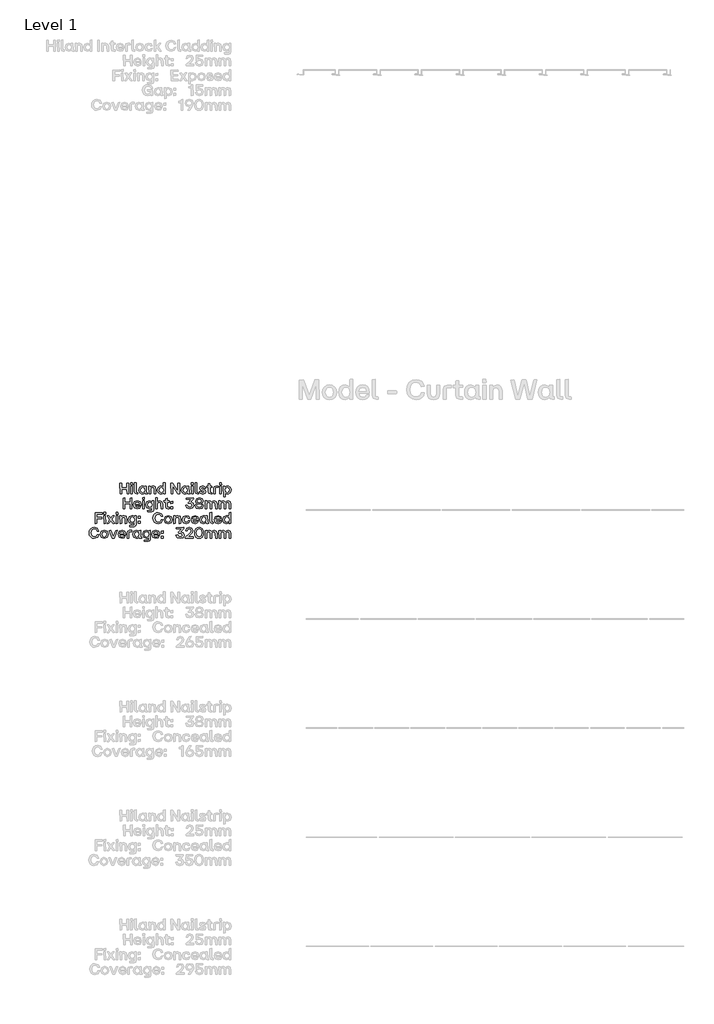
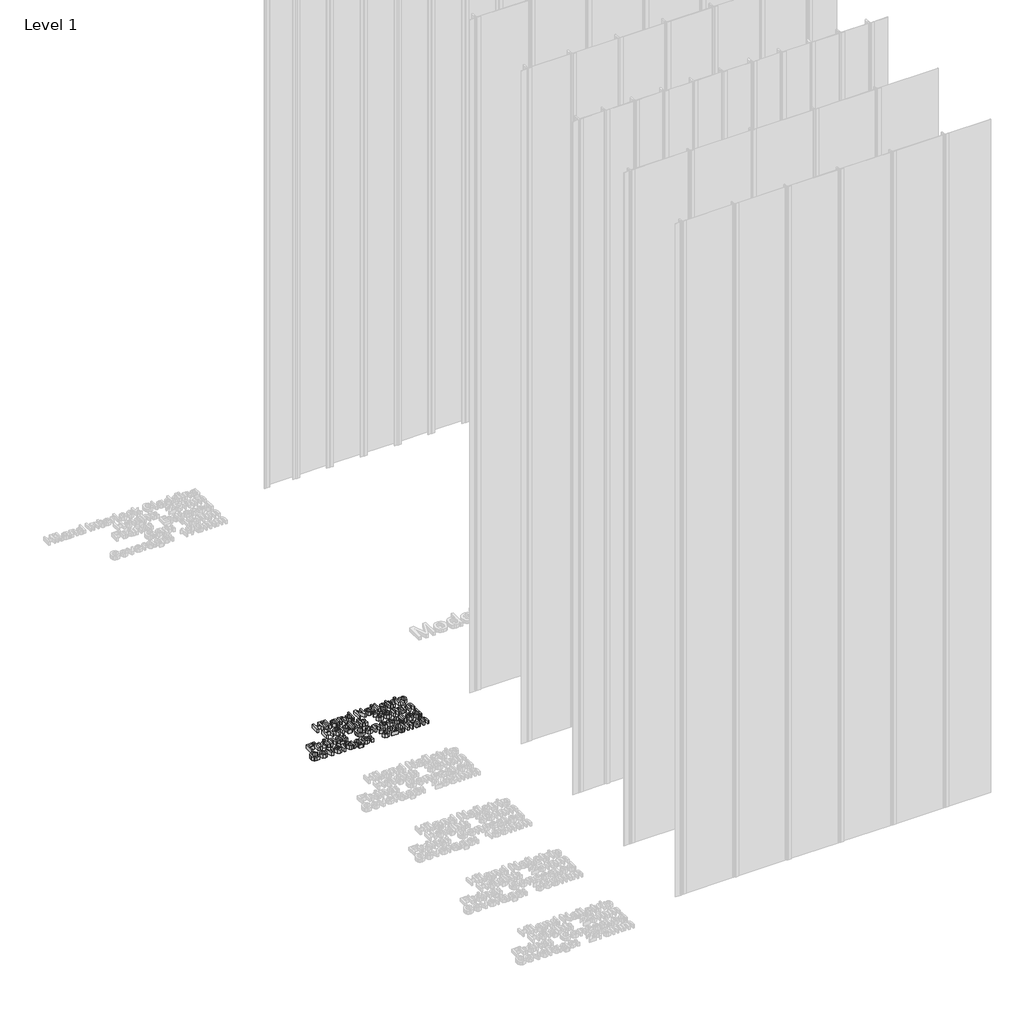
# One storey, part 13 of 64: 1 proxy.
"""IFC4 building model written with IfcOpenShell, lengths in millimetres."""

from ifc_helpers import new_model, si_unit, origin, origin_with_axes, place, context, project, spatial, polyline, outline, extrude, element, save

model = new_model("IFC4")

# Units and contexts
model_context = context("Model", 3, world=origin())
ifc_project = project(units=[si_unit("LENGTHUNIT", "METRE", prefix="MILLI")], contexts=[model_context])

# Site, building, storey
site = spatial("IfcSite", under=ifc_project)
building = spatial("IfcBuilding", under=site)
storey = spatial("IfcBuildingStorey", under=building, Name="Level 1", Elevation=0.0)

# Proxy
placement = place(None, origin())
element("IfcBuildingElementProxy", 1, Name="50mm", ObjectType="50mm", at=placement, inside=storey, context=model_context, shape_type="SweptSolid", body=[
    extrude(outline(polyline([(-779.9316481, -1933.5188866), (-780.6289799, -1911.5808277), (-804.4777279, -1911.5808277), (-804.4777279, -1932.8215548), (-811.9810183, -1933.5188866), (-812.7062434, -1884.2454206), (-805.2168997, -1883.5201955), (-804.4777279, -1904.6075096), (-780.6289799, -1904.6075096), (-780.6289799, -1884.2454206), (-773.1396362, -1883.5201955), (-772.4423044, -1932.8215548), (-779.9316481, -1933.5188866)])), origin_with_axes(), (0.0, 0.0, 1.0), 20.0),
    extrude(outline(polyline([(-762.3449397, -1933.5188866), (-763.0701648, -1897.8154977), (-755.8597538, -1897.1181659), (-755.162422, -1932.8215548), (-762.3449397, -1933.5188866)])), origin_with_axes(), (0.0, 0.0, 1.0), 20.0),
    extrude(outline(polyline([(-763.2793643, -1890.4516737), (-763.6280302, -1882.4044646), (-755.2321552, -1881.6652929), (-754.4929835, -1890.1030078), (-763.2793643, -1890.4516737)])), origin_with_axes(), (0.0, 0.0, 1.0), 20.0),
    extrude(outline(polyline([(-735.7626509, -1933.5188866), (-743.4611942, -1930.8690257), (-746.1110551, -1923.1565359), (-746.1110551, -1882.8228637), (-738.9006441, -1882.083692), (-738.2033123, -1927.2429003), (-731.5368201, -1927.2429003), (-730.8394883, -1932.8215548), (-735.7626509, -1933.5188866)])), origin_with_axes(), (0.0, 0.0, 1.0), 20.0),
    extrude(outline(polyline([(-710.6726522, -1933.9372857), (-722.4436133, -1928.8955767), (-726.8228571, -1915.3882594), (-722.4436133, -1901.7484491), (-710.6726522, -1896.6579269), (-704.0549733, -1898.2617901), (-699.0690509, -1902.6549805), (-698.7482782, -1897.8154977), (-691.5657605, -1897.1181659), (-690.8405354, -1927.2429003), (-686.8936374, -1927.2429003), (-686.1963056, -1932.8215548), (-692.1933592, -1933.5188866), (-696.848049, -1932.2113895), (-698.3996123, -1928.288898), (-703.7551206, -1932.3334225), (-710.6726522, -1933.9372857)]), holes=[polyline([(-718.7617013, -1915.3882594), (-716.0072406, -1924.2792401), (-708.4830304, -1927.521833), (-701.1192064, -1924.2931867), (-698.4693455, -1915.3882594), (-701.1401263, -1906.392679), (-708.4830304, -1903.1152195), (-716.0072406, -1906.392679), (-718.7617013, -1915.3882594)])]), origin_with_axes(), (0.0, 0.0, 1.0), 20.0),
    extrude(outline(polyline([(-679.3345605, -1933.5188866), (-680.0597856, -1897.8154977), (-673.1980405, -1897.1181659), (-672.5007087, -1902.6549805), (-667.3369666, -1898.1571903), (-660.7158011, -1896.6579269), (-651.1553819, -1900.8419178), (-647.8430558, -1913.0870644), (-647.8430558, -1932.8215548), (-655.0674134, -1933.5188866), (-655.7926384, -1913.0870644), (-657.7451675, -1905.7092939), (-663.9165541, -1903.3941522), (-670.1437272, -1905.7441604), (-672.1520428, -1913.0870644), (-672.1520428, -1932.8215548), (-679.3345605, -1933.5188866)])), origin_with_axes(), (0.0, 0.0, 1.0), 20.0),
    extrude(outline(polyline([(-624.9845189, -1933.9372857), (-636.7554799, -1928.8955767), (-641.1347237, -1915.3882594), (-636.7554799, -1901.7484491), (-624.9845189, -1896.6579269), (-618.36684, -1898.2617901), (-613.3809175, -1902.6549805), (-613.0601448, -1882.8228637), (-605.8776272, -1882.083692), (-605.1524021, -1932.8215548), (-612.0141471, -1933.5188866), (-612.7114789, -1928.0099653), (-618.0669873, -1932.3334225), (-624.9845189, -1933.9372857)]), holes=[polyline([(-633.0735679, -1915.3882594), (-630.3191073, -1924.2792401), (-622.794897, -1927.521833), (-615.431073, -1924.2931867), (-612.7812121, -1915.3882594), (-615.451993, -1906.392679), (-622.794897, -1903.1152195), (-630.3191073, -1906.392679), (-633.0735679, -1915.3882594)])]), origin_with_axes(), (0.0, 0.0, 1.0), 20.0),
    extrude(outline(polyline([(-578.1238209, -1933.5188866), (-578.849046, -1884.2454206), (-569.992932, -1883.5201955), (-546.7020494, -1920.7856077), (-546.4231166, -1884.2454206), (-539.2127057, -1883.5201955), (-538.5153739, -1932.8215548), (-547.329648, -1933.5188866), (-570.6205306, -1896.2395278), (-570.8994633, -1932.8215548), (-578.1238209, -1933.5188866)])), origin_with_axes(), (0.0, 0.0, 1.0), 20.0),
    extrude(outline(polyline([(-515.196598, -1933.9372857), (-526.967559, -1928.8955767), (-531.3468028, -1915.3882594), (-526.967559, -1901.7484491), (-515.196598, -1896.6579269), (-508.5789191, -1898.2617901), (-503.5929966, -1902.6549805), (-503.272224, -1897.8154977), (-496.0897063, -1897.1181659), (-495.3644812, -1927.2429003), (-491.4175831, -1927.2429003), (-490.7202513, -1932.8215548), (-496.7173049, -1933.5188866), (-501.3719948, -1932.2113895), (-502.923558, -1928.288898), (-508.2790664, -1932.3334225), (-515.196598, -1933.9372857)]), holes=[polyline([(-523.285647, -1915.3882594), (-520.5311864, -1924.2792401), (-513.0069761, -1927.521833), (-505.6431521, -1924.2931867), (-502.9932912, -1915.3882594), (-505.6640721, -1906.392679), (-513.0069761, -1903.1152195), (-520.5311864, -1906.392679), (-523.285647, -1915.3882594)])]), origin_with_axes(), (0.0, 0.0, 1.0), 20.0),
    extrude(outline(polyline([(-484.7929309, -1890.4516737), (-485.1415968, -1882.4044646), (-476.7457217, -1881.6652929), (-476.00655, -1890.1030078), (-484.7929309, -1890.4516737)])), origin_with_axes(), (0.0, 0.0, 1.0), 20.0),
    extrude(outline(polyline([(-483.8585062, -1933.5188866), (-484.5837313, -1897.8154977), (-477.3733204, -1897.1181659), (-476.6759885, -1932.8215548), (-483.8585062, -1933.5188866)])), origin_with_axes(), (0.0, 0.0, 1.0), 20.0),
    extrude(outline(polyline([(-457.2762175, -1933.5188866), (-464.9747607, -1930.8690257), (-467.6246216, -1923.1565359), (-467.6246216, -1882.8228637), (-460.4142106, -1882.083692), (-459.7168788, -1927.2429003), (-453.0503867, -1927.2429003), (-452.3530549, -1932.8215548), (-457.2762175, -1933.5188866)])), origin_with_axes(), (0.0, 0.0, 1.0), 20.0),
    extrude(outline(polyline([(-432.716191, -1933.9372857), (-443.4481276, -1930.9875721), (-447.9180245, -1922.5289372), (-440.9725996, -1921.7339789), (-437.890393, -1926.5455685), (-432.716191, -1927.8007657), (-428.2532673, -1926.6153017), (-426.579671, -1923.4354686), (-427.7790817, -1920.5764081), (-431.8375529, -1919.0841181), (-436.9280751, -1918.1775867), (-444.6545116, -1914.6351411), (-447.1509595, -1907.5363032), (-443.4899675, -1899.6215871), (-433.6227223, -1896.6579269), (-423.9298101, -1899.4123876), (-419.7039793, -1907.2294772), (-426.6494042, -1908.0244355), (-429.3968915, -1903.8613645), (-433.6227223, -1902.7944469), (-437.8764464, -1903.8962311), (-439.3408432, -1907.0900108), (-438.2948455, -1909.8584181), (-434.4874138, -1911.3716282), (-429.0482256, -1912.3897326), (-421.0358831, -1915.8763917), (-418.7695547, -1923.0170695), (-422.3956801, -1931.1130919), (-432.716191, -1933.9372857)])), origin_with_axes(), (0.0, 0.0, 1.0), 20.0),
    extrude(outline(polyline([(-396.9570155, -1933.5188866), (-404.6695054, -1930.8690257), (-407.3193663, -1923.1565359), (-407.3193663, -1903.3941522), (-413.5256194, -1903.3941522), (-414.2508445, -1897.8154977), (-407.3193663, -1897.1181659), (-407.3193663, -1887.104481), (-400.0950087, -1886.3792559), (-399.3976769, -1897.1181659), (-390.611296, -1897.1181659), (-389.8860709, -1902.6549805), (-399.3976769, -1903.3941522), (-399.3976769, -1927.2429003), (-390.611296, -1927.2429003), (-389.8860709, -1932.8215548), (-396.9570155, -1933.5188866)])), origin_with_axes(), (0.0, 0.0, 1.0), 20.0),
    extrude(outline(polyline([(-382.480407, -1933.5188866), (-383.1777388, -1907.4386768), (-380.5278779, -1899.7471068), (-372.8293347, -1897.1181659), (-362.6761835, -1897.1181659), (-361.9788517, -1903.1152195), (-375.2699961, -1903.8125513), (-375.2699961, -1932.8215548), (-382.480407, -1933.5188866)])), origin_with_axes(), (0.0, 0.0, 1.0), 20.0),
    extrude(outline(polyline([(-354.4337214, -1933.5188866), (-355.1589465, -1897.8154977), (-347.9485356, -1897.1181659), (-347.2512038, -1932.8215548), (-354.4337214, -1933.5188866)])), origin_with_axes(), (0.0, 0.0, 1.0), 20.0),
    extrude(outline(polyline([(-355.3681461, -1890.4516737), (-355.716812, -1882.4044646), (-347.3209369, -1881.6652929), (-346.5817652, -1890.1030078), (-355.3681461, -1890.4516737)])), origin_with_axes(), (0.0, 0.0, 1.0), 20.0),
    extrude(outline(polyline([(-337.4746117, -1947.0750171), (-338.1998368, -1897.8154977), (-331.3380917, -1897.1181659), (-330.6407599, -1902.5852473), (-325.2852516, -1898.2617901), (-318.36772, -1896.6579269), (-306.596759, -1901.7135826), (-302.2175152, -1915.2487931), (-306.596759, -1928.8607101), (-318.36772, -1933.9372857), (-324.9853989, -1932.3334225), (-329.9713214, -1927.9402321), (-330.292094, -1946.3776853), (-337.4746117, -1947.0750171)]), holes=[polyline([(-330.5710268, -1915.2487931), (-327.9002459, -1924.2443735), (-320.5573419, -1927.521833), (-313.0331316, -1924.2443735), (-310.2786709, -1915.2487931), (-313.0331316, -1906.3578124), (-320.5573419, -1903.1152195), (-327.9211659, -1906.3368925), (-330.5710268, -1915.2487931)])]), origin_with_axes(), (0.0, 0.0, 1.0), 20.0),
    extrude(outline(polyline([(-765.6502925, -2001.3705811), (-766.3476243, -1979.4325222), (-790.1963724, -1979.4325222), (-790.1963724, -2000.6732493), (-797.6996627, -2001.3705811), (-798.4248878, -1952.0971151), (-790.9355441, -1951.37189), (-790.1963724, -1972.459204), (-766.3476243, -1972.459204), (-766.3476243, -1952.0971151), (-758.8582806, -1951.37189), (-758.1609488, -2000.6732493), (-765.6502925, -2001.3705811)])), origin_with_axes(), (0.0, 0.0, 1.0), 20.0),
    extrude(outline(polyline([(-732.5130847, -2001.7889802), (-745.9158022, -1996.7472711), (-750.9226446, -1983.2399539), (-745.9367221, -1969.586197), (-732.5130847, -1964.5096214), (-720.2330714, -1969.5164638), (-715.7352812, -1983.1702207), (-715.7352812, -1985.0809099), (-742.7917556, -1985.8200816), (-739.7234956, -1992.8631329), (-732.5130847, -1995.3735275), (-726.7252306, -1994.0974102), (-723.7267038, -1990.520098), (-716.6418126, -1989.9343393), (-721.2999891, -1998.6998002), (-732.5130847, -2001.7889802)]), holes=[polyline([(-742.7220224, -1980.0322275), (-723.5175043, -1980.0322275), (-726.1603919, -1973.3866554), (-732.5130847, -1970.966914), (-739.6049492, -1973.2681089), (-742.7220224, -1980.0322275)])]), origin_with_axes(), (0.0, 0.0, 1.0), 20.0),
    extrude(outline(polyline([(-708.8316963, -1958.3033682), (-709.1803622, -1950.2561591), (-700.7844871, -1949.5169873), (-700.0453154, -1957.9547023), (-708.8316963, -1958.3033682)])), origin_with_axes(), (0.0, 0.0, 1.0), 20.0),
    extrude(outline(polyline([(-707.8972716, -2001.3705811), (-708.6224967, -1965.6671922), (-701.4120858, -1964.9698603), (-700.7147539, -2000.6732493), (-707.8972716, -2001.3705811)])), origin_with_axes(), (0.0, 0.0, 1.0), 20.0),
    extrude(outline(polyline([(-686.2241988, -2014.9267115), (-686.9633706, -2009.348057), (-665.7226435, -2008.6507252), (-665.7226435, -1995.7919266), (-671.0293386, -2000.185117), (-677.6470175, -2001.7889802), (-689.4179785, -1996.7124045), (-693.7972223, -1983.1004875), (-689.4179785, -1969.565277), (-677.6470175, -1964.5096214), (-670.7294859, -1966.1134845), (-665.6529103, -1970.4369418), (-665.3739776, -1965.6671922), (-658.5401258, -1964.9698603), (-657.8149007, -2004.9269733), (-660.3950284, -2012.3675038), (-667.8146389, -2014.9267115), (-686.2241988, -2014.9267115)]), holes=[polyline([(-685.7360666, -1983.1004875), (-682.9816059, -1992.0960679), (-675.4573956, -1995.3735275), (-668.1144916, -1992.0960679), (-665.4437108, -1983.1004875), (-668.0935716, -1974.1885869), (-675.4573956, -1970.966914), (-682.9816059, -1974.2095069), (-685.7360666, -1983.1004875)])]), origin_with_axes(), (0.0, 0.0, 1.0), 20.0),
    extrude(outline(polyline([(-648.0940952, -2001.3705811), (-648.8193203, -1950.6745581), (-641.6089093, -1949.9353864), (-640.9115775, -1970.2277422), (-635.8245419, -1965.9391516), (-629.4753358, -1964.5096214), (-619.9149166, -1968.6936122), (-616.6025905, -1980.9387589), (-616.6025905, -2000.6732493), (-623.8269481, -2001.3705811), (-624.5521731, -1980.9387589), (-626.5047022, -1973.5609883), (-632.6760888, -1971.2458467), (-638.9032619, -1973.5958549), (-640.9115775, -1980.9387589), (-640.9115775, -2000.6732493), (-648.0940952, -2001.3705811)])), origin_with_axes(), (0.0, 0.0, 1.0), 20.0),
    extrude(outline(polyline([(-593.3256545, -2001.3705811), (-601.0381444, -1998.7207202), (-603.6880053, -1991.0082303), (-603.6880053, -1971.2458467), (-609.8942584, -1971.2458467), (-610.6194835, -1965.6671922), (-603.6880053, -1964.9698603), (-603.6880053, -1954.9561755), (-596.4636477, -1954.2309504), (-595.7663158, -1964.9698603), (-586.979935, -1964.9698603), (-586.2547099, -1970.506675), (-595.7663158, -1971.2458467), (-595.7663158, -1995.0945947), (-586.979935, -1995.0945947), (-586.2547099, -2000.6732493), (-593.3256545, -2001.3705811)])), origin_with_axes(), (0.0, 0.0, 1.0), 20.0),
    extrude(outline(polyline([(-578.849046, -1977.7310326), (-579.5463778, -1968.1078535), (-570.0626652, -1967.3686818), (-569.3374401, -1977.0337007), (-578.849046, -1977.7310326)])), origin_with_axes(), (0.0, 0.0, 1.0), 20.0),
    extrude(outline(polyline([(-579.1977119, -2001.0219152), (-579.5463778, -1991.747402), (-570.0626652, -1991.0082303), (-569.3374401, -2000.6732493), (-579.1977119, -2001.0219152)])), origin_with_axes(), (0.0, 0.0, 1.0), 20.0),
    extrude(outline(polyline([(-491.7244091, -2001.7889802), (-505.1201533, -1997.7235357), (-510.9428739, -1985.959548), (-503.57905, -1985.1506431), (-499.415979, -1992.7236666), (-491.7244091, -1994.9551284), (-484.5837313, -1992.5493336), (-481.9338704, -1985.959548), (-484.7022777, -1979.0908296), (-493.3701122, -1976.8942344), (-498.8093003, -1976.8942344), (-499.5066322, -1972.8078699), (-486.1457546, -1958.6520341), (-508.8508785, -1958.3731014), (-509.5761036, -1952.0971151), (-475.8670836, -1951.37189), (-475.1697518, -1956.1834795), (-488.0703904, -1970.0882759), (-477.3454271, -1975.2136647), (-473.7332483, -1985.959548), (-478.5797044, -1997.5352561), (-491.7244091, -2001.7889802)])), origin_with_axes(), (0.0, 0.0, 1.0), 20.0),
    extrude(outline(polyline([(-434.5710936, -1998.1768014), (-448.6153563, -2001.7889802), (-462.6875123, -1998.1768014), (-467.6246216, -1987.8702371), (-465.1490936, -1980.1368273), (-458.4895748, -1975.8063967), (-464.0542827, -1971.1691402), (-465.9091853, -1964.370155), (-461.2231155, -1954.5796163), (-448.6223296, -1950.9534909), (-436.0354904, -1954.5796163), (-431.3633672, -1964.370155), (-433.2182699, -1971.1691402), (-438.7829777, -1975.527464), (-432.1234589, -1980.1368273), (-429.647931, -1987.8702371), (-434.5710936, -1998.1768014)]), holes=[polyline([(-459.4239995, -1986.9358125), (-456.7218387, -1992.9502994), (-448.6153563, -1994.9551284), (-440.5402539, -1992.9502994), (-437.8485531, -1986.9358125), (-440.5402539, -1981.3606446), (-448.6153563, -1979.5022554), (-456.7218387, -1981.3606446), (-459.4239995, -1986.9358125)]), polyline([(-457.6806699, -1965.4579926), (-455.3446083, -1970.8065276), (-448.6153563, -1972.6684036), (-441.8861043, -1970.8065276), (-439.5500427, -1965.4579926), (-441.8861043, -1959.788685), (-448.6153563, -1957.8152359), (-455.3446083, -1959.788685), (-457.6806699, -1965.4579926)])]), origin_with_axes(), (0.0, 0.0, 1.0), 20.0),
    extrude(outline(polyline([(-421.3775756, -2001.3705811), (-422.1028007, -1965.6671922), (-415.2410557, -1964.9698603), (-414.5437239, -1970.506675), (-409.5578014, -1966.0088848), (-403.1074821, -1964.5096214), (-396.8210358, -1966.0088848), (-392.605665, -1970.506675), (-386.7829443, -1966.0646713), (-379.5376668, -1964.5096214), (-370.2631536, -1968.6796656), (-367.0554273, -1980.9387589), (-367.0554273, -2000.6732493), (-374.2658383, -2001.3705811), (-374.9631701, -1980.9387589), (-376.845966, -1973.5609883), (-382.8151263, -1971.2458467), (-388.7215268, -1973.5958549), (-390.6252426, -1980.9387589), (-390.6252426, -2000.6732493), (-397.8356536, -2001.3705811), (-398.5329854, -1980.9387589), (-400.4018347, -1973.5609883), (-406.3152085, -1971.2458467), (-412.2913421, -1973.5958549), (-414.195058, -1980.9387589), (-414.195058, -2000.6732493), (-421.3775756, -2001.3705811)])), origin_with_axes(), (0.0, 0.0, 1.0), 20.0),
    extrude(outline(polyline([(-358.0040603, -2001.3705811), (-358.7292854, -1965.6671922), (-351.8675404, -1964.9698603), (-351.1702086, -1970.506675), (-346.1842861, -1966.0088848), (-339.7339668, -1964.5096214), (-333.4475205, -1966.0088848), (-329.2321497, -1970.506675), (-323.409429, -1966.0646713), (-316.1641515, -1964.5096214), (-306.8896383, -1968.6796656), (-303.681912, -1980.9387589), (-303.681912, -2000.6732493), (-310.8923229, -2001.3705811), (-311.5896548, -1980.9387589), (-313.4724507, -1973.5609883), (-319.441611, -1971.2458467), (-325.3480115, -1973.5958549), (-327.2517273, -1980.9387589), (-327.2517273, -2000.6732493), (-334.4621383, -2001.3705811), (-335.1594701, -1980.9387589), (-337.0283194, -1973.5609883), (-342.9416931, -1971.2458467), (-348.9178268, -1973.5958549), (-350.8215426, -1980.9387589), (-350.8215426, -2000.6732493), (-358.0040603, -2001.3705811)])), origin_with_axes(), (0.0, 0.0, 1.0), 20.0),
    extrude(outline(polyline([(-925.3392781, -2069.2222755), (-926.0645031, -2019.9488095), (-894.4753719, -2019.2235844), (-893.7780401, -2025.527464), (-917.8359877, -2026.2247958), (-917.8359877, -2041.287163), (-895.9118755, -2041.287163), (-895.2145437, -2047.5631494), (-917.8359877, -2048.3023211), (-917.8359877, -2068.5249437), (-925.3392781, -2069.2222755)])), origin_with_axes(), (0.0, 0.0, 1.0), 20.0),
    extrude(outline(polyline([(-885.5216314, -2069.2222755), (-886.2468565, -2033.5188866), (-879.0364456, -2032.8215548), (-878.3391137, -2068.5249437), (-885.5216314, -2069.2222755)])), origin_with_axes(), (0.0, 0.0, 1.0), 20.0),
    extrude(outline(polyline([(-886.4560561, -2026.1550627), (-886.804722, -2018.1078535), (-878.4088469, -2017.3686818), (-877.6696752, -2025.8063967), (-886.4560561, -2026.1550627)])), origin_with_axes(), (0.0, 0.0, 1.0), 20.0),
    extrude(outline(polyline([(-871.4215821, -2069.2222755), (-858.6604099, -2050.7429824), (-870.8637167, -2033.658353), (-862.8722941, -2032.8215548), (-854.0859132, -2044.815662), (-845.8573978, -2033.2399539), (-837.7404555, -2032.8215548), (-849.3440569, -2049.9340775), (-836.303952, -2068.3436374), (-844.2953746, -2069.2222755), (-854.0161801, -2055.7916648), (-863.2906932, -2068.8038764), (-871.4215821, -2069.2222755)])), origin_with_axes(), (0.0, 0.0, 1.0), 20.0),
    extrude(outline(polyline([(-829.2887939, -2069.2222755), (-830.014019, -2033.5188866), (-822.803608, -2032.8215548), (-822.1062762, -2068.5249437), (-829.2887939, -2069.2222755)])), origin_with_axes(), (0.0, 0.0, 1.0), 20.0),
    extrude(outline(polyline([(-830.2232185, -2026.1550627), (-830.5718844, -2018.1078535), (-822.1760094, -2017.3686818), (-821.4368377, -2025.8063967), (-830.2232185, -2026.1550627)])), origin_with_axes(), (0.0, 0.0, 1.0), 20.0),
    extrude(outline(polyline([(-812.3296842, -2069.2222755), (-813.0549093, -2033.5188866), (-806.1931642, -2032.8215548), (-805.4958324, -2038.3583694), (-800.3320903, -2033.8605792), (-793.7109247, -2032.3613158), (-784.1505056, -2036.5453067), (-780.8381794, -2048.7904534), (-780.8381794, -2068.5249437), (-788.062537, -2069.2222755), (-788.7877621, -2048.7904534), (-790.7402912, -2041.4126828), (-796.9116778, -2039.0975411), (-803.1388509, -2041.4475493), (-805.1471665, -2048.7904534), (-805.1471665, -2068.5249437), (-812.3296842, -2069.2222755)])), origin_with_axes(), (0.0, 0.0, 1.0), 20.0),
    extrude(outline(polyline([(-766.5568239, -2082.778406), (-767.2959956, -2077.1997515), (-746.0552685, -2076.5024197), (-746.0552685, -2063.643621), (-751.3619636, -2068.0368114), (-757.9796426, -2069.6406746), (-769.7506036, -2064.564099), (-774.1298474, -2050.952182), (-769.7506036, -2037.4169715), (-757.9796426, -2032.3613158), (-751.0621109, -2033.965179), (-745.9855353, -2038.2886362), (-745.7066026, -2033.5188866), (-738.8727508, -2032.8215548), (-738.1475257, -2072.7786678), (-740.7276535, -2080.2191982), (-748.147264, -2082.778406), (-766.5568239, -2082.778406)]), holes=[polyline([(-766.0686916, -2050.952182), (-763.3142309, -2059.9477624), (-755.7900207, -2063.2252219), (-748.4471166, -2059.9477624), (-745.7763358, -2050.952182), (-748.4261967, -2042.0402814), (-755.7900207, -2038.8186084), (-763.3142309, -2042.0612013), (-766.0686916, -2050.952182)])]), origin_with_axes(), (0.0, 0.0, 1.0), 20.0),
    extrude(outline(polyline([(-728.8032794, -2045.582727), (-729.5006112, -2035.959548), (-720.0168986, -2035.2203762), (-719.2916735, -2044.8853952), (-728.8032794, -2045.582727)])), origin_with_axes(), (0.0, 0.0, 1.0), 20.0),
    extrude(outline(polyline([(-729.1519453, -2068.8736096), (-729.5006112, -2059.5990965), (-720.0168986, -2058.8599248), (-719.2916735, -2068.5249437), (-729.1519453, -2068.8736096)])), origin_with_axes(), (0.0, 0.0, 1.0), 20.0),
    extrude(outline(polyline([(-637.0483593, -2069.6406746), (-647.0550708, -2067.9269817), (-654.7605874, -2062.7859029), (-659.6767766, -2054.7160305), (-661.3155064, -2044.2159567), (-659.66283, -2033.8919591), (-654.7048008, -2025.7924501), (-646.9853376, -2020.5520015), (-637.0483593, -2018.8051853), (-622.8716035, -2023.4215219), (-615.9192053, -2035.7085085), (-623.2411893, -2036.5174134), (-628.4049314, -2028.3272513), (-637.0483593, -2025.8063967), (-648.7077472, -2030.743506), (-652.9475246, -2044.2159567), (-648.7286672, -2057.7999804), (-637.0483593, -2062.6673565), (-628.2340851, -2060.1813685), (-623.5480153, -2052.7234048), (-616.1284048, -2052.0679129), (-622.5926707, -2065.0382846), (-637.0483593, -2069.6406746)])), origin_with_axes(), (0.0, 0.0, 1.0), 20.0),
    extrude(outline(polyline([(-591.693898, -2069.6406746), (-604.8525494, -2064.5152858), (-609.8942584, -2051.0916483), (-604.8386027, -2037.5564378), (-591.693898, -2032.3613158), (-578.4236736, -2037.5564378), (-573.3540713, -2051.0916483), (-578.4236736, -2064.5152858), (-591.693898, -2069.6406746)]), holes=[polyline([(-601.8331026, -2051.0916483), (-599.1344285, -2059.9965756), (-591.693898, -2063.2252219), (-584.1557411, -2059.982629), (-581.4012805, -2051.0916483), (-584.1417945, -2042.0960679), (-591.693898, -2038.8186084), (-599.1344285, -2042.0960679), (-601.8331026, -2051.0916483)])]), origin_with_axes(), (0.0, 0.0, 1.0), 20.0),
    extrude(outline(polyline([(-565.083716, -2069.2222755), (-565.8089411, -2033.5188866), (-558.947196, -2032.8215548), (-558.2498642, -2038.3583694), (-553.0861221, -2033.8605792), (-546.4649565, -2032.3613158), (-536.9045374, -2036.5453067), (-533.5922113, -2048.7904534), (-533.5922113, -2068.5249437), (-540.8165689, -2069.2222755), (-541.5417939, -2048.7904534), (-543.494323, -2041.4126828), (-549.6657096, -2039.0975411), (-555.8928827, -2041.4475493), (-557.9011983, -2048.7904534), (-557.9011983, -2068.5249437), (-565.083716, -2069.2222755)])), origin_with_axes(), (0.0, 0.0, 1.0), 20.0),
    extrude(outline(polyline([(-508.5440525, -2069.6406746), (-521.8770368, -2064.5989656), (-526.8838792, -2051.0916483), (-521.8073036, -2037.5564378), (-508.5440525, -2032.3613158), (-497.4704233, -2035.7991616), (-492.2543813, -2044.8853952), (-499.2695393, -2045.6524602), (-502.8398782, -2040.3527384), (-508.5440525, -2038.8186084), (-516.1031293, -2042.0960679), (-518.8227234, -2051.0916483), (-516.0891827, -2060.0174956), (-508.5440525, -2063.2252219), (-502.6655453, -2061.7608251), (-499.6879384, -2057.0189688), (-492.6030472, -2056.3495302), (-497.2612237, -2066.2028288), (-508.5440525, -2069.6406746)])), origin_with_axes(), (0.0, 0.0, 1.0), 20.0),
    extrude(outline(polyline([(-468.3080068, -2069.6406746), (-481.7107242, -2064.5989656), (-486.7175667, -2051.0916483), (-481.7316442, -2037.4378914), (-468.3080068, -2032.3613158), (-456.0279935, -2037.3681582), (-451.5302033, -2051.0219152), (-451.5302033, -2052.9326043), (-478.5866777, -2053.6717761), (-475.5184177, -2060.7148274), (-468.3080068, -2063.2252219), (-462.5201527, -2061.9491047), (-459.5216259, -2058.3717925), (-452.4367347, -2057.7860338), (-457.0949112, -2066.5514947), (-468.3080068, -2069.6406746)]), holes=[polyline([(-478.5169445, -2047.883922), (-459.3124264, -2047.883922), (-461.9553139, -2041.2383498), (-468.3080068, -2038.8186084), (-475.3998713, -2041.1198034), (-478.5169445, -2047.883922)])]), origin_with_axes(), (0.0, 0.0, 1.0), 20.0),
    extrude(outline(polyline([(-430.4010493, -2069.6406746), (-442.1720104, -2064.5989656), (-446.5512542, -2051.0916483), (-442.1720104, -2037.4518381), (-430.4010493, -2032.3613158), (-423.7833704, -2033.965179), (-418.7974479, -2038.3583694), (-418.4766753, -2033.5188866), (-411.2941576, -2032.8215548), (-410.5689325, -2062.9462892), (-406.6220345, -2062.9462892), (-405.9247026, -2068.5249437), (-411.9217562, -2069.2222755), (-416.5764461, -2067.9147784), (-418.1280094, -2063.9922869), (-423.4835177, -2068.0368114), (-430.4010493, -2069.6406746)]), holes=[polyline([(-438.4900984, -2051.0916483), (-435.7356377, -2059.982629), (-428.2114274, -2063.2252219), (-420.8476035, -2059.9965756), (-418.1977426, -2051.0916483), (-420.8685234, -2042.0960679), (-428.2114274, -2038.8186084), (-435.7356377, -2042.0960679), (-438.4900984, -2051.0916483)])]), origin_with_axes(), (0.0, 0.0, 1.0), 20.0),
    extrude(outline(polyline([(-389.4397785, -2069.2222755), (-397.1383218, -2066.5724146), (-399.7881827, -2058.8599248), (-399.7881827, -2018.5262526), (-392.5777717, -2017.7870809), (-391.8804399, -2062.9462892), (-385.2139477, -2062.9462892), (-384.5166159, -2068.5249437), (-389.4397785, -2069.2222755)])), origin_with_axes(), (0.0, 0.0, 1.0), 20.0),
    extrude(outline(polyline([(-362.0904248, -2069.6406746), (-375.4931422, -2064.5989656), (-380.4999847, -2051.0916483), (-375.5140622, -2037.4378914), (-362.0904248, -2032.3613158), (-349.8104115, -2037.3681582), (-345.3126213, -2051.0219152), (-345.3126213, -2052.9326043), (-372.3690957, -2053.6717761), (-369.3008357, -2060.7148274), (-362.0904248, -2063.2252219), (-356.3025707, -2061.9491047), (-353.3040439, -2058.3717925), (-346.2191527, -2057.7860338), (-350.8773292, -2066.5514947), (-362.0904248, -2069.6406746)]), holes=[polyline([(-372.2993625, -2047.883922), (-353.0948444, -2047.883922), (-355.7377319, -2041.2383498), (-362.0904248, -2038.8186084), (-369.1822893, -2041.1198034), (-372.2993625, -2047.883922)])]), origin_with_axes(), (0.0, 0.0, 1.0), 20.0),
    extrude(outline(polyline([(-324.1834673, -2069.6406746), (-335.9544284, -2064.5989656), (-340.3336722, -2051.0916483), (-335.9544284, -2037.4518381), (-324.1834673, -2032.3613158), (-317.5657884, -2033.965179), (-312.5798659, -2038.3583694), (-312.2590933, -2018.5262526), (-305.0765756, -2017.7870809), (-304.3513505, -2068.5249437), (-311.2130956, -2069.2222755), (-311.9104274, -2063.7133542), (-317.2659357, -2068.0368114), (-324.1834673, -2069.6406746)]), holes=[polyline([(-332.2725164, -2051.0916483), (-329.5180557, -2059.982629), (-321.9938454, -2063.2252219), (-314.6300215, -2059.9965756), (-311.9801606, -2051.0916483), (-314.6509414, -2042.0960679), (-321.9938454, -2038.8186084), (-329.5180557, -2042.0960679), (-332.2725164, -2051.0916483)])]), origin_with_axes(), (0.0, 0.0, 1.0), 20.0),
    extrude(outline(polyline([(-929.8161483, -2137.4923691), (-939.8228598, -2135.7786761), (-947.5283764, -2130.6375973), (-952.4445657, -2122.5677249), (-954.0832954, -2112.0676511), (-952.430619, -2101.7436536), (-947.4725898, -2093.6441446), (-939.7531267, -2088.403696), (-929.8161483, -2086.6568798), (-915.6393925, -2091.2732164), (-908.6869943, -2103.560203), (-916.0089784, -2104.3691079), (-921.1727205, -2096.1789457), (-929.8161483, -2093.6580912), (-941.4755362, -2098.5952004), (-945.7153137, -2112.0676511), (-941.4964562, -2125.6516749), (-929.8161483, -2130.5190509), (-921.0018742, -2128.033063), (-916.3158044, -2120.5750992), (-908.8961939, -2119.9196073), (-915.3604598, -2132.8899791), (-929.8161483, -2137.4923691)])), origin_with_axes(), (0.0, 0.0, 1.0), 20.0),
    extrude(outline(polyline([(-884.4616871, -2137.4923691), (-897.6203384, -2132.3669802), (-902.6620474, -2118.9433428), (-897.6063918, -2105.4081323), (-884.4616871, -2100.2130103), (-871.1914626, -2105.4081323), (-866.1218604, -2118.9433428), (-871.1914626, -2132.3669802), (-884.4616871, -2137.4923691)]), holes=[polyline([(-894.6008917, -2118.9433428), (-891.9022175, -2127.8482701), (-884.4616871, -2131.0769164), (-876.9235302, -2127.8343234), (-874.1690695, -2118.9433428), (-876.9095835, -2109.9477624), (-884.4616871, -2106.6703029), (-891.9022175, -2109.9477624), (-894.6008917, -2118.9433428)])]), origin_with_axes(), (0.0, 0.0, 1.0), 20.0),
    extrude(outline(polyline([(-848.0191265, -2137.07397), (-862.4120551, -2101.5100474), (-855.1598042, -2100.6732493), (-843.7235625, -2130.5887841), (-832.8870261, -2101.2311147), (-825.5232021, -2100.6732493), (-838.6330402, -2136.5161045), (-848.0191265, -2137.07397)])), origin_with_axes(), (0.0, 0.0, 1.0), 20.0),
    extrude(outline(polyline([(-803.0272778, -2137.4923691), (-816.4299952, -2132.45066), (-821.4368377, -2118.9433428), (-816.4509152, -2105.2895859), (-803.0272778, -2100.2130103), (-790.7472645, -2105.2198527), (-786.2494743, -2118.8736096), (-786.2494743, -2120.7842988), (-813.3059487, -2121.5234705), (-810.2376887, -2128.5665218), (-803.0272778, -2131.0769164), (-797.2394237, -2129.8007992), (-794.2408969, -2126.2234869), (-787.1560057, -2125.6377282), (-791.8141822, -2134.4031891), (-803.0272778, -2137.4923691)]), holes=[polyline([(-813.2362155, -2115.7356165), (-794.0316974, -2115.7356165), (-796.6745849, -2109.0900443), (-803.0272778, -2106.6703029), (-810.1191423, -2108.9714978), (-813.2362155, -2115.7356165)])]), origin_with_axes(), (0.0, 0.0, 1.0), 20.0),
    extrude(outline(polyline([(-778.7880239, -2137.07397), (-779.4853557, -2110.9937601), (-776.8354948, -2103.3021902), (-769.1369516, -2100.6732493), (-758.9838004, -2100.6732493), (-758.2864685, -2106.6703029), (-771.5776129, -2107.3676347), (-771.5776129, -2136.3766382), (-778.7880239, -2137.07397)])), origin_with_axes(), (0.0, 0.0, 1.0), 20.0),
    extrude(outline(polyline([(-737.4501939, -2137.4923691), (-749.221155, -2132.45066), (-753.6003988, -2118.9433428), (-749.221155, -2105.3035325), (-737.4501939, -2100.2130103), (-730.832515, -2101.8168734), (-725.8465925, -2106.2100639), (-725.5258199, -2101.3705811), (-718.3433022, -2100.6732493), (-717.6180771, -2130.7979836), (-713.6711791, -2130.7979836), (-712.9738472, -2136.3766382), (-718.9709008, -2137.07397), (-723.6255907, -2135.7664728), (-725.177154, -2131.8439814), (-730.5326623, -2135.8885059), (-737.4501939, -2137.4923691)]), holes=[polyline([(-745.539243, -2118.9433428), (-742.7847823, -2127.8343234), (-735.260572, -2131.0769164), (-727.8967481, -2127.8482701), (-725.2468872, -2118.9433428), (-727.917668, -2109.9477624), (-735.260572, -2106.6703029), (-742.7847823, -2109.9477624), (-745.539243, -2118.9433428)])]), origin_with_axes(), (0.0, 0.0, 1.0), 20.0),
    extrude(outline(polyline([(-701.3981391, -2150.6301005), (-702.1373108, -2145.0514459), (-680.8965838, -2144.3541141), (-680.8965838, -2131.4953155), (-686.2032789, -2135.8885059), (-692.8209578, -2137.4923691), (-704.5919188, -2132.4157935), (-708.9711626, -2118.8038764), (-704.5919188, -2105.2686659), (-692.8209578, -2100.2130103), (-685.9034262, -2101.8168734), (-680.8268506, -2106.1403307), (-680.5479179, -2101.3705811), (-673.7140661, -2100.6732493), (-672.988841, -2140.6303622), (-675.5689687, -2148.0708927), (-682.9885792, -2150.6301005), (-701.3981391, -2150.6301005)]), holes=[polyline([(-700.9100068, -2118.8038764), (-698.1555462, -2127.7994568), (-690.6313359, -2131.0769164), (-683.2884319, -2127.7994568), (-680.617651, -2118.8038764), (-683.2675119, -2109.8919758), (-690.6313359, -2106.6703029), (-698.1555462, -2109.9128958), (-700.9100068, -2118.8038764)])]), origin_with_axes(), (0.0, 0.0, 1.0), 20.0),
    extrude(outline(polyline([(-647.717536, -2137.4923691), (-661.1202535, -2132.45066), (-666.1270959, -2118.9433428), (-661.1411735, -2105.2895859), (-647.717536, -2100.2130103), (-635.4375228, -2105.2198527), (-630.9397326, -2118.8736096), (-630.9397326, -2120.7842988), (-657.996207, -2121.5234705), (-654.927947, -2128.5665218), (-647.717536, -2131.0769164), (-641.929682, -2129.8007992), (-638.9311552, -2126.2234869), (-631.8462639, -2125.6377282), (-636.5044404, -2134.4031891), (-647.717536, -2137.4923691)]), holes=[polyline([(-657.9264738, -2115.7356165), (-638.7219556, -2115.7356165), (-641.3648432, -2109.0900443), (-647.717536, -2106.6703029), (-654.8094006, -2108.9714978), (-657.9264738, -2115.7356165)])]), origin_with_axes(), (0.0, 0.0, 1.0), 20.0),
    extrude(outline(polyline([(-623.4782822, -2113.4344215), (-624.175614, -2103.8112424), (-614.6919013, -2103.0720707), (-613.9666762, -2112.7370896), (-623.4782822, -2113.4344215)])), origin_with_axes(), (0.0, 0.0, 1.0), 20.0),
    extrude(outline(polyline([(-623.8269481, -2136.7253041), (-624.175614, -2127.4507909), (-614.6919013, -2126.7116192), (-613.9666762, -2136.3766382), (-623.8269481, -2136.7253041)])), origin_with_axes(), (0.0, 0.0, 1.0), 20.0),
    extrude(outline(polyline([(-536.3536452, -2137.4923691), (-549.7493894, -2133.4269246), (-555.57211, -2121.6629369), (-548.2082861, -2120.854032), (-544.0452152, -2128.4270555), (-536.3536452, -2130.6585173), (-529.2129675, -2128.2527225), (-526.5631066, -2121.6629369), (-529.3315139, -2114.7942185), (-537.9993483, -2112.5976233), (-543.4385365, -2112.5976233), (-544.1358683, -2108.5112589), (-530.7749907, -2094.355423), (-553.4801146, -2094.0764903), (-554.2053397, -2087.800504), (-520.4963198, -2087.0752789), (-519.798988, -2091.8868684), (-532.6996265, -2105.7916648), (-521.9746632, -2110.9170536), (-518.3624844, -2121.6629369), (-523.2089405, -2133.238645), (-536.3536452, -2137.4923691)])), origin_with_axes(), (0.0, 0.0, 1.0), 20.0),
    extrude(outline(polyline([(-512.2538577, -2137.07397), (-512.9790828, -2132.2902737), (-495.6155206, -2116.2934819), (-488.4678695, -2108.3787658), (-486.4804739, -2101.0916483), (-488.4608962, -2095.4118807), (-494.4021633, -2093.5186248), (-501.2708816, -2095.5966736), (-504.1229688, -2102.1655393), (-511.5565259, -2102.8628712), (-506.9680826, -2090.6665377), (-494.4021633, -2086.6568798), (-482.5754157, -2090.5270714), (-478.2519584, -2101.0916483), (-480.9366859, -2110.8682404), (-490.1065993, -2121.2724311), (-499.5624187, -2129.7798792), (-476.8294015, -2130.0588119), (-476.1320697, -2136.3766382), (-512.2538577, -2137.07397)])), origin_with_axes(), (0.0, 0.0, 1.0), 20.0),
    extrude(outline(polyline([(-449.8705536, -2137.4923691), (-458.7876842, -2135.8919926), (-465.1769869, -2131.090863), (-469.0210286, -2123.134307), (-470.3023758, -2112.0676511), (-469.0210286, -2101.0027385), (-465.1769869, -2093.0514125), (-458.7876842, -2088.255513), (-449.8705536, -2086.6568798), (-441.0092096, -2088.255513), (-434.6478001, -2093.0514125), (-430.8142184, -2101.0027385), (-429.5363579, -2112.0676511), (-430.8142184, -2123.134307), (-434.6478001, -2131.090863), (-441.0092096, -2135.8919926), (-449.8705536, -2137.4923691)]), holes=[polyline([(-459.0892802, -2097.9815485), (-461.934394, -2112.0676511), (-459.0892802, -2126.1746737), (-449.8705536, -2130.5190509), (-440.7355068, -2126.1258605), (-437.8764464, -2112.0746244), (-440.7355068, -2098.037335), (-449.8705536, -2093.6580912), (-459.0892802, -2097.9815485)])]), origin_with_axes(), (0.0, 0.0, 1.0), 20.0),
    extrude(outline(polyline([(-421.3775756, -2137.07397), (-422.1028007, -2101.3705811), (-415.2410557, -2100.6732493), (-414.5437239, -2106.2100639), (-409.5578014, -2101.7122737), (-403.1074821, -2100.2130103), (-396.8210358, -2101.7122737), (-392.605665, -2106.2100639), (-386.7829443, -2101.7680602), (-379.5376668, -2100.2130103), (-370.2631536, -2104.3830545), (-367.0554273, -2116.6421478), (-367.0554273, -2136.3766382), (-374.2658383, -2137.07397), (-374.9631701, -2116.6421478), (-376.845966, -2109.2643772), (-382.8151263, -2106.9492356), (-388.7215268, -2109.2992438), (-390.6252426, -2116.6421478), (-390.6252426, -2136.3766382), (-397.8356536, -2137.07397), (-398.5329854, -2116.6421478), (-400.4018347, -2109.2643772), (-406.3152085, -2106.9492356), (-412.2913421, -2109.2992438), (-414.195058, -2116.6421478), (-414.195058, -2136.3766382), (-421.3775756, -2137.07397)])), origin_with_axes(), (0.0, 0.0, 1.0), 20.0),
    extrude(outline(polyline([(-358.0040603, -2137.07397), (-358.7292854, -2101.3705811), (-351.8675404, -2100.6732493), (-351.1702086, -2106.2100639), (-346.1842861, -2101.7122737), (-339.7339668, -2100.2130103), (-333.4475205, -2101.7122737), (-329.2321497, -2106.2100639), (-323.409429, -2101.7680602), (-316.1641515, -2100.2130103), (-306.8896383, -2104.3830545), (-303.681912, -2116.6421478), (-303.681912, -2136.3766382), (-310.8923229, -2137.07397), (-311.5896548, -2116.6421478), (-313.4724507, -2109.2643772), (-319.441611, -2106.9492356), (-325.3480115, -2109.2992438), (-327.2517273, -2116.6421478), (-327.2517273, -2136.3766382), (-334.4621383, -2137.07397), (-335.1594701, -2116.6421478), (-337.0283194, -2109.2643772), (-342.9416931, -2106.9492356), (-348.9178268, -2109.2992438), (-350.8215426, -2116.6421478), (-350.8215426, -2136.3766382), (-358.0040603, -2137.07397)])), origin_with_axes(), (0.0, 0.0, 1.0), 20.0),
])

save(model, "model.ifc")
